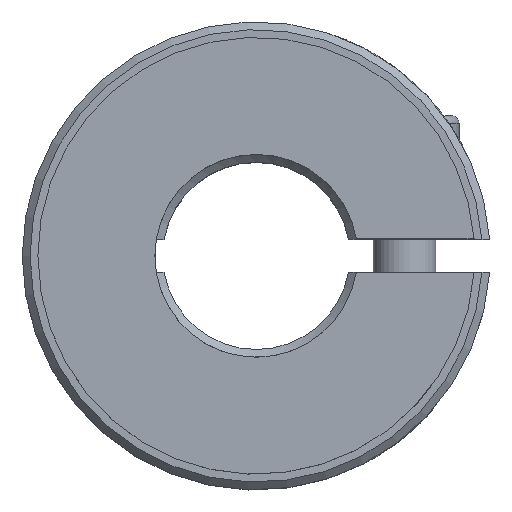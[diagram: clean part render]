
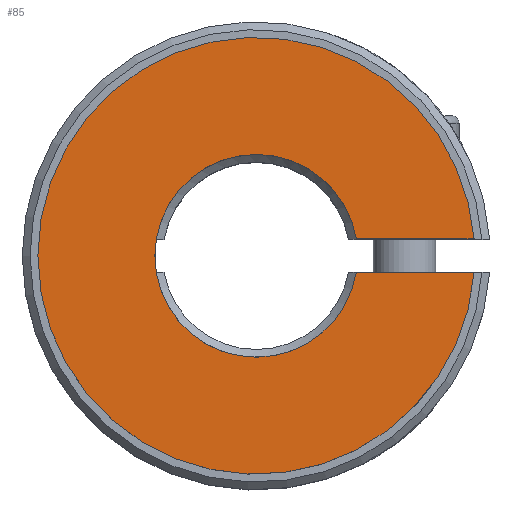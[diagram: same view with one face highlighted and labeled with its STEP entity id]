
A CAD part, top view. The second image highlights one B-rep face of the part: STEP entity #85.
In plain terms, the highlighted planar face has unit normal (0, 0, 1).
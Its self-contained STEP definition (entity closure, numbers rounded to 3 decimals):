
#85 = ADVANCED_FACE( '', ( #138 ), #139, .T. );
#138 = FACE_OUTER_BOUND( '', #232, .T. );
#139 = PLANE( '', #233 );
#232 = EDGE_LOOP( '', ( #384, #385, #386, #387 ) );
#233 = AXIS2_PLACEMENT_3D( '', #388, #389, #390 );
#384 = ORIENTED_EDGE( '', *, *, #632, .F. );
#385 = ORIENTED_EDGE( '', *, *, #638, .T. );
#386 = ORIENTED_EDGE( '', *, *, #634, .T. );
#387 = ORIENTED_EDGE( '', *, *, #639, .T. );
#388 = CARTESIAN_POINT( '', ( 0., 14., 7.5 ) );
#389 = DIRECTION( '', ( 0., 0., 1. ) );
#390 = DIRECTION( '', ( 1., 0., 0. ) );
#632 = EDGE_CURVE( '', #747, #749, #750, .T. );
#634 = EDGE_CURVE( '', #752, #753, #754, .T. );
#638 = EDGE_CURVE( '', #747, #752, #758, .T. );
#639 = EDGE_CURVE( '', #753, #749, #759, .T. );
#747 = VERTEX_POINT( '', #996 );
#749 = VERTEX_POINT( '', #999 );
#750 = CIRCLE( '', #1000, 14. );
#752 = VERTEX_POINT( '', #1003 );
#753 = VERTEX_POINT( '', #1004 );
#754 = CIRCLE( '', #1005, 6.5 );
#758 = LINE( '', #1011, #1012 );
#759 = LINE( '', #1013, #1014 );
#996 = CARTESIAN_POINT( '', ( 13.958, -1.08, 7.5 ) );
#999 = CARTESIAN_POINT( '', ( 13.958, 1.08, 7.5 ) );
#1000 = AXIS2_PLACEMENT_3D( '', #1220, #1221, #1222 );
#1003 = CARTESIAN_POINT( '', ( 6.41, -1.08, 7.5 ) );
#1004 = CARTESIAN_POINT( '', ( 6.41, 1.08, 7.5 ) );
#1005 = AXIS2_PLACEMENT_3D( '', #1224, #1225, #1226 );
#1011 = CARTESIAN_POINT( '', ( 0., -1.08, 7.5 ) );
#1012 = VECTOR( '', #1232, 1000. );
#1013 = CARTESIAN_POINT( '', ( 0., 1.08, 7.5 ) );
#1014 = VECTOR( '', #1233, 1000. );
#1220 = CARTESIAN_POINT( '', ( 0., 0., 7.5 ) );
#1221 = DIRECTION( '', ( 0., 0., -1. ) );
#1222 = DIRECTION( '', ( -1., 0., 0. ) );
#1224 = CARTESIAN_POINT( '', ( 0., 0., 7.5 ) );
#1225 = DIRECTION( '', ( 0., 0., -1. ) );
#1226 = DIRECTION( '', ( -1., 0., 0. ) );
#1232 = DIRECTION( '', ( -1., 0., 0. ) );
#1233 = DIRECTION( '', ( 1., 0., 0. ) );
